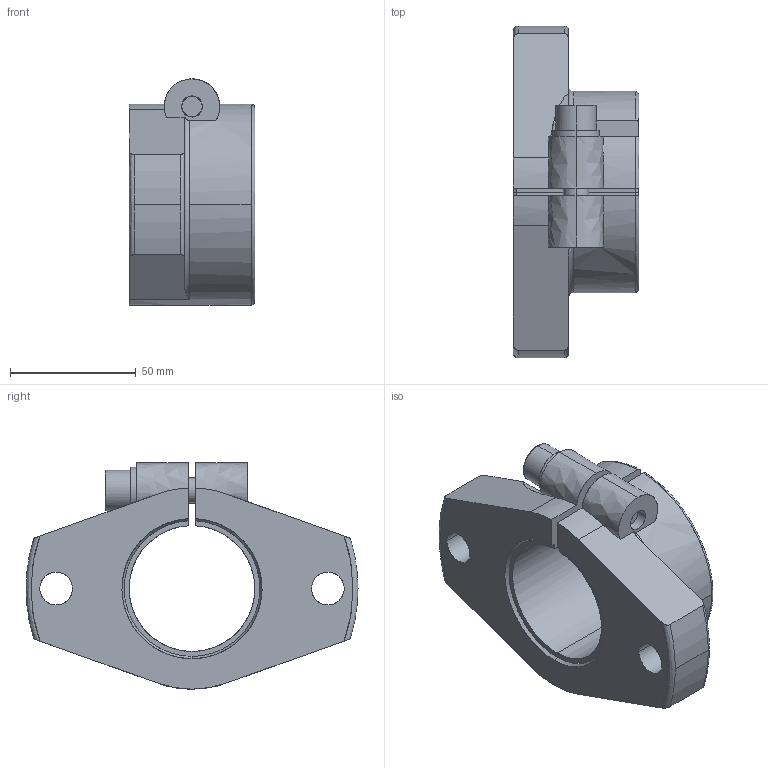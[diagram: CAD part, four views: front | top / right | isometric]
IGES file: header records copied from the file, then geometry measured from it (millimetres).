
Global section: file name: No Iges File Name specified; native system: AutoDesk Inventor R10; preprocessor: AutoDesk Inventor Iges Exporter R10; author: No Author specified; organization: No Organization specified; date: 20101214.154006; units: millimetre
Bounding box: 50 x 132 x 90 mm (x, y, z)
Surface area: 40113.7 mm2 (no closed solid volume)
Topology: 0 solids, 0 shells, 75 faces, 682 edges, 680 vertices
Faces by surface type: bspline 75
